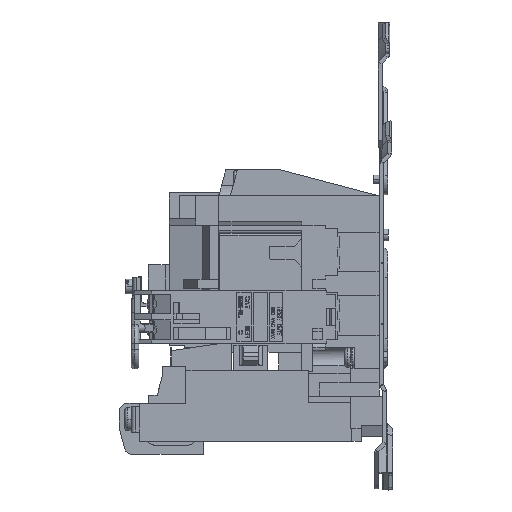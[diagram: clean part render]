
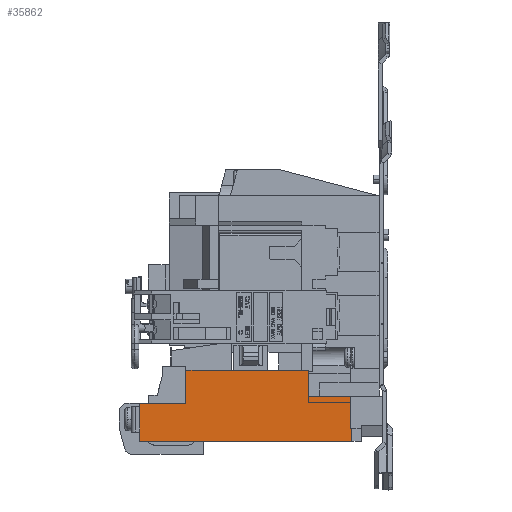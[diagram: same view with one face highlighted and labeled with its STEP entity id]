
A CAD part, left-side view. The second image highlights one B-rep face of the part: STEP entity #35862.
In plain terms, the highlighted planar face has unit normal (-1, 0, 0) as drawn and (1, 0, 0) by its records, which use the part's own axes.
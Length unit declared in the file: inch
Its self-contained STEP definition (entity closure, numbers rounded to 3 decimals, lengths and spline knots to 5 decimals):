
#34278=DIRECTION('',(0.,-1.,0.));
#34279=VECTOR('',#34278,3.457);
#34280=CARTESIAN_POINT('',(1.531,2.14,0.734));
#34281=LINE('',#34280,#34279);
#34282=DIRECTION('',(0.,0.,1.));
#34283=VECTOR('',#34282,0.616);
#34284=CARTESIAN_POINT('',(1.531,2.14,0.118));
#34285=LINE('',#34284,#34283);
#34286=DIRECTION('',(0.,1.,0.));
#34287=VECTOR('',#34286,0.755);
#34288=CARTESIAN_POINT('',(1.531,1.385,0.118));
#34289=LINE('',#34288,#34287);
#34290=DIRECTION('',(0.,0.,1.));
#34291=VECTOR('',#34290,0.54);
#34292=CARTESIAN_POINT('',(1.531,1.385,-0.422));
#34293=LINE('',#34292,#34291);
#34294=DIRECTION('',(0.,1.,0.));
#34295=VECTOR('',#34294,1.994);
#34296=CARTESIAN_POINT('',(1.531,-0.609,-0.422));
#34297=LINE('',#34296,#34295);
#34298=DIRECTION('',(0.,0.,-1.));
#34299=VECTOR('',#34298,0.422);
#34300=CARTESIAN_POINT('',(1.531,-0.609,0.));
#34301=LINE('',#34300,#34299);
#34302=DIRECTION('',(0.,1.,0.));
#34303=VECTOR('',#34302,0.708);
#34304=CARTESIAN_POINT('',(1.531,-1.317,0.));
#34305=LINE('',#34304,#34303);
#34306=DIRECTION('',(0.,0.,-1.));
#34307=VECTOR('',#34306,0.734);
#34308=CARTESIAN_POINT('',(1.531,-1.317,0.734));
#34309=LINE('',#34308,#34307);
#35305=CARTESIAN_POINT('',(1.531,2.14,0.734));
#35306=CARTESIAN_POINT('',(1.531,-1.317,0.734));
#35307=VERTEX_POINT('',#35305);
#35308=VERTEX_POINT('',#35306);
#35309=CARTESIAN_POINT('',(1.531,-1.317,0.));
#35310=VERTEX_POINT('',#35309);
#35311=CARTESIAN_POINT('',(1.531,-0.609,0.));
#35312=CARTESIAN_POINT('',(1.531,-0.609,-0.422));
#35313=VERTEX_POINT('',#35311);
#35314=VERTEX_POINT('',#35312);
#35315=CARTESIAN_POINT('',(1.531,1.385,-0.422));
#35316=VERTEX_POINT('',#35315);
#35317=CARTESIAN_POINT('',(1.531,1.385,0.118));
#35318=VERTEX_POINT('',#35317);
#35319=CARTESIAN_POINT('',(1.531,2.14,0.118));
#35320=VERTEX_POINT('',#35319);
#35842=CARTESIAN_POINT('',(1.531,0.,0.));
#35843=DIRECTION('',(1.,0.,0.));
#35844=DIRECTION('',(0.,0.,-1.));
#35845=AXIS2_PLACEMENT_3D('',#35842,#35843,#35844);
#35846=PLANE('',#35845);
#35847=ORIENTED_EDGE('',*,*,#35750,.F.);
#35849=ORIENTED_EDGE('',*,*,#35848,.F.);
#35851=ORIENTED_EDGE('',*,*,#35850,.F.);
#35853=ORIENTED_EDGE('',*,*,#35852,.F.);
#35855=ORIENTED_EDGE('',*,*,#35854,.F.);
#35857=ORIENTED_EDGE('',*,*,#35856,.F.);
#35858=ORIENTED_EDGE('',*,*,#35812,.F.);
#35859=ORIENTED_EDGE('',*,*,#35836,.F.);
#35860=EDGE_LOOP('',(#35847,#35849,#35851,#35853,#35855,#35857,#35858,#35859));
#35861=FACE_OUTER_BOUND('',#35860,.F.);
#35862=ADVANCED_FACE('',(#35861),#35846,.T.);
#35750=EDGE_CURVE('',#35307,#35308,#34281,.T.);
#35812=EDGE_CURVE('',#35310,#35313,#34305,.T.);
#35836=EDGE_CURVE('',#35308,#35310,#34309,.T.);
#35848=EDGE_CURVE('',#35320,#35307,#34285,.T.);
#35850=EDGE_CURVE('',#35318,#35320,#34289,.T.);
#35852=EDGE_CURVE('',#35316,#35318,#34293,.T.);
#35854=EDGE_CURVE('',#35314,#35316,#34297,.T.);
#35856=EDGE_CURVE('',#35313,#35314,#34301,.T.);
